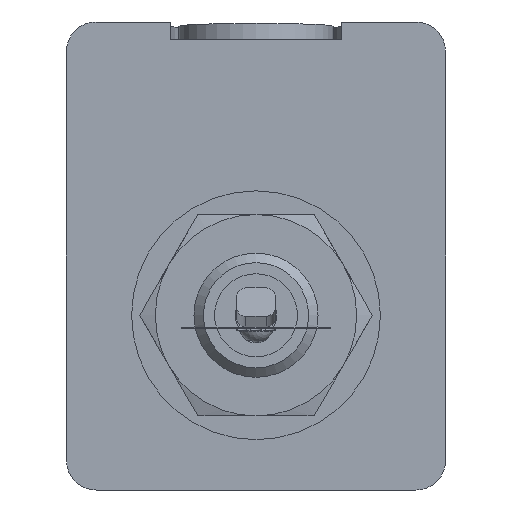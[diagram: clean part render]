
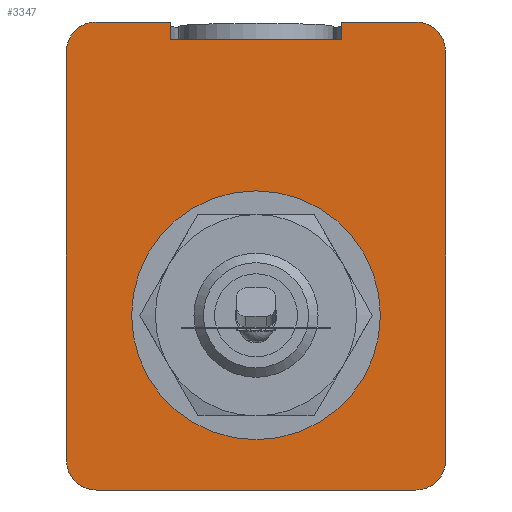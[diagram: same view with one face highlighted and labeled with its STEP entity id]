
A CAD part, front view. The second image highlights one B-rep face of the part: STEP entity #3347.
In plain terms, the highlighted planar face has unit normal (0, -1, 0).
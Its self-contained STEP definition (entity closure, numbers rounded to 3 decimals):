
#104=FACE_BOUND('',#516,.T.);
#148=PLANE('',#3621);
#251=ELLIPSE('',#3622,5.006,5.);
#252=ELLIPSE('',#3623,5.006,5.);
#253=ELLIPSE('',#3624,5.006,5.);
#254=ELLIPSE('',#3625,5.006,5.);
#313=FACE_OUTER_BOUND('',#515,.T.);
#515=EDGE_LOOP('',(#2502,#2503,#2504,#2505,#2506,#2507,#2508,#2509,#2510,
#2511,#2512,#2513));
#516=EDGE_LOOP('',(#2514,#2515));
#722=LINE('',#5147,#1020);
#726=LINE('',#5169,#1024);
#731=LINE('',#5178,#1029);
#744=LINE('',#5219,#1042);
#746=LINE('',#5222,#1044);
#748=LINE('',#5229,#1046);
#749=LINE('',#5233,#1047);
#750=LINE('',#5237,#1048);
#1020=VECTOR('',#4098,10.);
#1024=VECTOR('',#4118,10.);
#1029=VECTOR('',#4123,10.);
#1042=VECTOR('',#4160,10.);
#1044=VECTOR('',#4164,10.);
#1046=VECTOR('',#4172,10.);
#1047=VECTOR('',#4175,10.);
#1048=VECTOR('',#4178,10.);
#1302=CIRCLE('',#3586,21.);
#1303=CIRCLE('',#3587,21.);
#1480=VERTEX_POINT('',#5121);
#1481=VERTEX_POINT('',#5123);
#1488=VERTEX_POINT('',#5145);
#1489=VERTEX_POINT('',#5146);
#1498=VERTEX_POINT('',#5166);
#1499=VERTEX_POINT('',#5168);
#1502=VERTEX_POINT('',#5175);
#1503=VERTEX_POINT('',#5177);
#1520=VERTEX_POINT('',#5226);
#1521=VERTEX_POINT('',#5228);
#1522=VERTEX_POINT('',#5230);
#1523=VERTEX_POINT('',#5232);
#1524=VERTEX_POINT('',#5234);
#1525=VERTEX_POINT('',#5236);
#1842=EDGE_CURVE('',#1481,#1480,#1302,.T.);
#1843=EDGE_CURVE('',#1480,#1481,#1303,.T.);
#1852=EDGE_CURVE('',#1488,#1489,#722,.T.);
#1862=EDGE_CURVE('',#1498,#1499,#726,.T.);
#1867=EDGE_CURVE('',#1502,#1503,#731,.T.);
#1888=EDGE_CURVE('',#1489,#1503,#744,.T.);
#1890=EDGE_CURVE('',#1498,#1488,#746,.T.);
#1892=EDGE_CURVE('',#1520,#1502,#251,.T.);
#1893=EDGE_CURVE('',#1521,#1520,#748,.T.);
#1894=EDGE_CURVE('',#1522,#1521,#252,.T.);
#1895=EDGE_CURVE('',#1523,#1522,#749,.T.);
#1896=EDGE_CURVE('',#1524,#1523,#253,.T.);
#1897=EDGE_CURVE('',#1525,#1524,#750,.T.);
#1898=EDGE_CURVE('',#1499,#1525,#254,.T.);
#2502=ORIENTED_EDGE('',*,*,#1890,.T.);
#2503=ORIENTED_EDGE('',*,*,#1852,.T.);
#2504=ORIENTED_EDGE('',*,*,#1888,.T.);
#2505=ORIENTED_EDGE('',*,*,#1867,.F.);
#2506=ORIENTED_EDGE('',*,*,#1892,.F.);
#2507=ORIENTED_EDGE('',*,*,#1893,.F.);
#2508=ORIENTED_EDGE('',*,*,#1894,.F.);
#2509=ORIENTED_EDGE('',*,*,#1895,.F.);
#2510=ORIENTED_EDGE('',*,*,#1896,.F.);
#2511=ORIENTED_EDGE('',*,*,#1897,.F.);
#2512=ORIENTED_EDGE('',*,*,#1898,.F.);
#2513=ORIENTED_EDGE('',*,*,#1862,.F.);
#2514=ORIENTED_EDGE('',*,*,#1842,.T.);
#2515=ORIENTED_EDGE('',*,*,#1843,.T.);
#3347=ADVANCED_FACE('',(#313,#104),#148,.F.);
#3586=AXIS2_PLACEMENT_3D('',#5124,#4070,#4071);
#3587=AXIS2_PLACEMENT_3D('',#5125,#4072,#4073);
#3621=AXIS2_PLACEMENT_3D('',#5225,#4168,#4169);
#3622=AXIS2_PLACEMENT_3D('',#5227,#4170,#4171);
#3623=AXIS2_PLACEMENT_3D('',#5231,#4173,#4174);
#3624=AXIS2_PLACEMENT_3D('',#5235,#4176,#4177);
#3625=AXIS2_PLACEMENT_3D('',#5238,#4179,#4180);
#4070=DIRECTION('center_axis',(0.,1.,0.));
#4071=DIRECTION('ref_axis',(1.,0.,0.));
#4072=DIRECTION('center_axis',(0.,1.,0.));
#4073=DIRECTION('ref_axis',(1.,0.,0.));
#4098=DIRECTION('',(-1.,0.,0.));
#4118=DIRECTION('',(1.,0.,0.));
#4123=DIRECTION('',(1.,0.,0.));
#4160=DIRECTION('',(0.,0.,1.));
#4164=DIRECTION('',(0.,0.,-1.));
#4168=DIRECTION('center_axis',(0.,1.,0.));
#4169=DIRECTION('ref_axis',(0.,0.,1.));
#4170=DIRECTION('center_axis',(0.,1.,0.));
#4171=DIRECTION('ref_axis',(-0.707,0.,0.707));
#4172=DIRECTION('',(0.,0.,1.));
#4173=DIRECTION('center_axis',(0.,1.,0.));
#4174=DIRECTION('ref_axis',(-0.707,0.,-0.707));
#4175=DIRECTION('',(-1.,0.,0.));
#4176=DIRECTION('center_axis',(0.,1.,0.));
#4177=DIRECTION('ref_axis',(0.707,0.,-0.707));
#4178=DIRECTION('',(0.,0.,-1.));
#4179=DIRECTION('center_axis',(0.,1.,0.));
#4180=DIRECTION('ref_axis',(0.707,0.,0.707));
#5121=CARTESIAN_POINT('',(-21.,0.,-10.));
#5123=CARTESIAN_POINT('',(21.,0.,-10.));
#5124=CARTESIAN_POINT('Origin',(0.,0.,-10.));
#5125=CARTESIAN_POINT('Origin',(0.,0.,-10.));
#5145=CARTESIAN_POINT('',(14.5,0.,36.498));
#5146=CARTESIAN_POINT('',(-14.5,0.,36.498));
#5147=CARTESIAN_POINT('',(0.,0.,36.498));
#5166=CARTESIAN_POINT('',(14.5,0.,39.5));
#5168=CARTESIAN_POINT('',(27.003,0.,39.5));
#5169=CARTESIAN_POINT('',(-32.,0.,39.5));
#5175=CARTESIAN_POINT('',(-27.003,0.,39.5));
#5177=CARTESIAN_POINT('',(-14.5,0.,39.5));
#5178=CARTESIAN_POINT('',(-32.,0.,39.5));
#5219=CARTESIAN_POINT('',(-14.5,0.,19.75));
#5222=CARTESIAN_POINT('',(14.5,0.,19.401));
#5225=CARTESIAN_POINT('Origin',(0.,0.,0.));
#5226=CARTESIAN_POINT('',(-32.,0.,34.503));
#5227=CARTESIAN_POINT('Origin',(-26.997,0.,34.497));
#5228=CARTESIAN_POINT('',(-32.,0.,-34.503));
#5229=CARTESIAN_POINT('',(-32.,0.,-39.5));
#5230=CARTESIAN_POINT('',(-27.003,0.,-39.5));
#5231=CARTESIAN_POINT('Origin',(-26.997,0.,-34.497));
#5232=CARTESIAN_POINT('',(27.003,0.,-39.5));
#5233=CARTESIAN_POINT('',(32.,0.,-39.5));
#5234=CARTESIAN_POINT('',(32.,0.,-34.503));
#5235=CARTESIAN_POINT('Origin',(26.997,0.,-34.497));
#5236=CARTESIAN_POINT('',(32.,0.,34.503));
#5237=CARTESIAN_POINT('',(32.,0.,39.5));
#5238=CARTESIAN_POINT('Origin',(26.997,0.,34.497));
